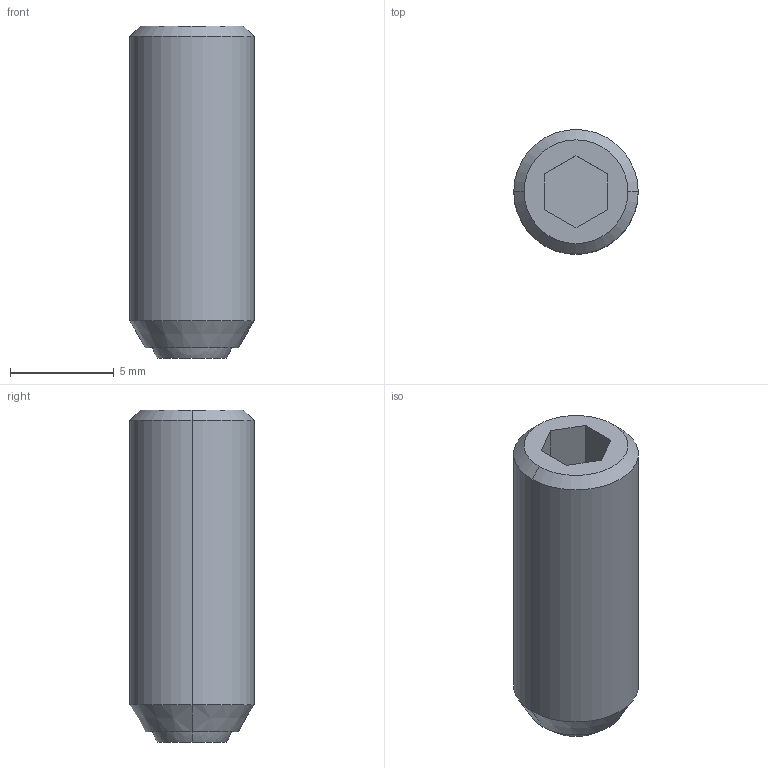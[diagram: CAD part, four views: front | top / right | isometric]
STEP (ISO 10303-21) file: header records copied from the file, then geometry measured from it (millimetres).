
FILE_DESCRIPTION (( 'STEP AP203' ), '1' );
FILE_NAME ('bsf6x16-sus.STEP', '2021-10-25T00:44:37', ( '' ), ( '' ), 'SwSTEP 2.0', 'SolidWorks 2020', '' );
FILE_SCHEMA (( 'CONFIG_CONTROL_DESIGN' ));
Length unit declared in the file: millimetre
Products named in the file (1): bsf6x16-sus
Bounding box: 6 x 6 x 16 mm (x, y, z)
Volume: 409.3 mm3; surface area: 365.5 mm2
Topology: 1 solids, 1 shells, 18 faces, 38 edges, 24 vertices
Faces by surface type: plane 10, cone 4, sphere 2, cylinder 2
Entity records: 561 total; most frequent: DIRECTION 90, CARTESIAN_POINT 81, ORIENTED_EDGE 76, EDGE_CURVE 38, AXIS2_PLACEMENT_3D 33, VERTEX_POINT 24, VECTOR 24, LINE 24
